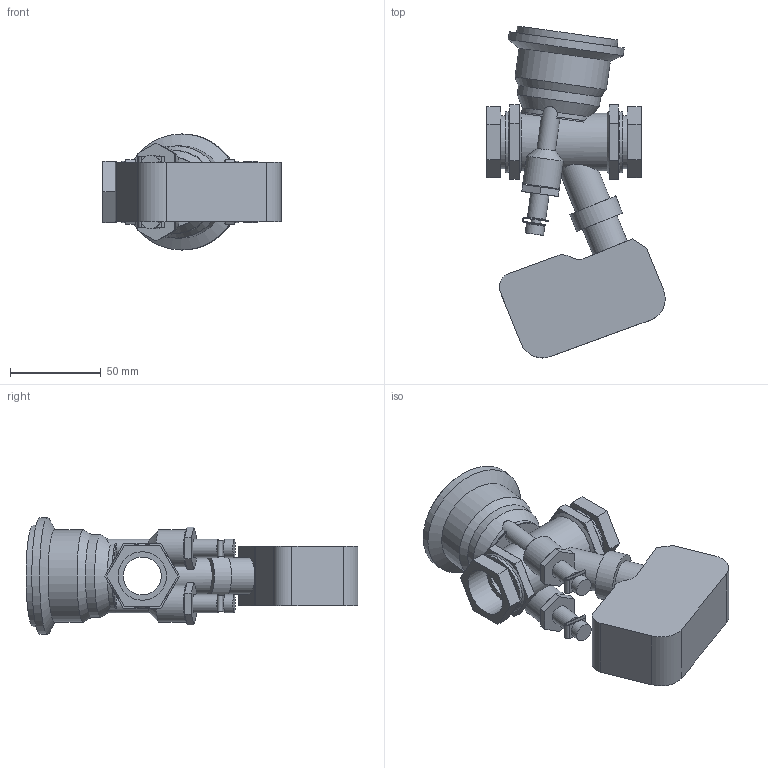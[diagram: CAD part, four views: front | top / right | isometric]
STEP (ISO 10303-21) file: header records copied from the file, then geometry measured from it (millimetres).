
FILE_DESCRIPTION(/* description */ ('VIC BALANCING AND CONTROL VALVE SERIES 7CP (FPT)-TA SLIDER 160','CAx-IF Rec.Pracs.---Representation and Presentation of Product Manufacturing Information (PMI)---4.0---2014-10-13'),/* implementation_level */ '2;1');
FILE_NAME(/* name */ 'C:\Users\Vjadhav\AppData\Roaming\Autodesk\ApplicationPlugins\Victaulic.Temp\A633\Victaulic_IPS_Valve Balancing Pressure Independent_TA Series 7CP (FPT)_Slider 160_0.75 (20).stp',/* time_stamp */ '2021-09-14T20:03:30+06:00',/* author */ ('Vjadhav'),/* organization */ ('Victaulic'),/* preprocessor_version */ 'ST-DEVELOPER v17.2',/* originating_system */ 'Autodesk Inventor 2019',/* authorisation */ '');
FILE_SCHEMA (('AP242_MANAGED_MODEL_BASED_3D_ENGINEERING_MIM_LF { 1 0 10303 442 1 1 4 }'));
Length unit declared in the file: inch
Products named in the file (2): 7CP_Slider 160-0.75; 7CP-0.75
Assembly tree (1 placements, depth 2):
  7CP_Slider 160-0.75
    7CP-0.75
Bounding box: 98.26 x 182.88 x 64.01 mm (x, y, z)
Volume: 285380.6 mm3; surface area: 56720 mm2
Topology: 1 solids, 1 shells, 173 faces, 441 edges, 294 vertices
Faces by surface type: plane 116, cylinder 48, cone 9
Full cylindrical faces by diameter (mm): 5.08 x6, 10.16 x8, 20.32 x4, 20.93 x2, 26.67 x3, 27.184 x1, 29.21 x2, 31.75 x1, 33.782 x2, 45.72 x1, 50.8 x1, 55.88 x1, 64.008 x1
Entity records: 5824 total; most frequent: CARTESIAN_POINT 1182, DIRECTION 945, ORIENTED_EDGE 882, EDGE_CURVE 441, AXIS2_PLACEMENT_3D 349, VERTEX_POINT 294, LINE 247, VECTOR 247
